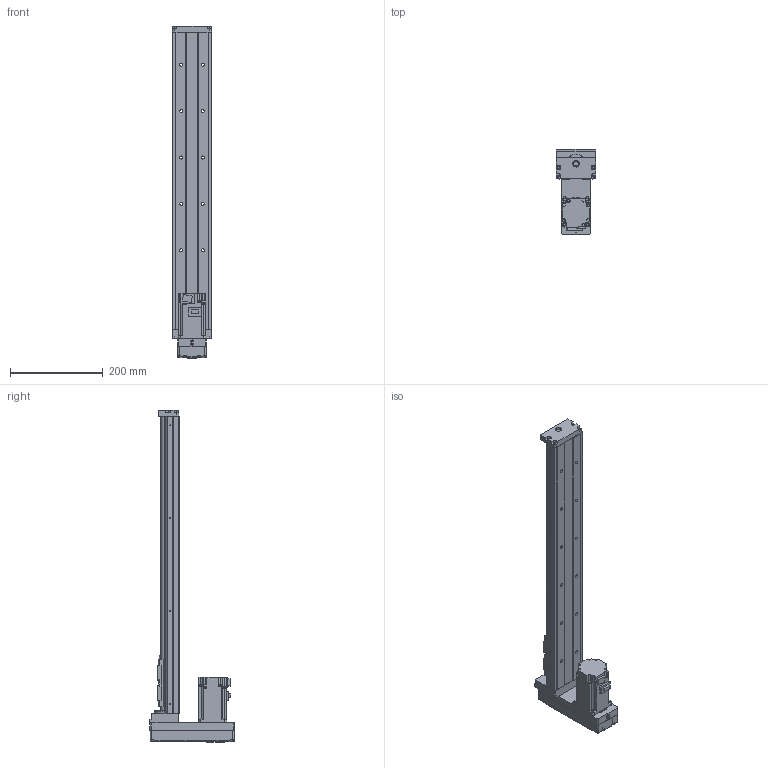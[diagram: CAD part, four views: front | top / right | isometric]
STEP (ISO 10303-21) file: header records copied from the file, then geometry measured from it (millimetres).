
FILE_DESCRIPTION (( 'STEP AP203' ), '1' );
FILE_NAME ('KH86D10C-640A1-H0M-Z.STEP', '2023-09-14T08:46:41', ( 'Windows User' ), ( 'P R C' ), 'SwSTEP 2.0', 'SolidWorks 2016', '' );
FILE_SCHEMA (( 'CONFIG_CONTROL_DESIGN' ));
Length unit declared in the file: millimetre
Products named in the file (7): KH86-綴釱-05S_KK86-05-01; KH86-01-640; KK86-06-02（M12X1.0）; KH86-02-BM00; KH86-A1; 86賑輸; KH86D10C-640A1-H0M-Z
Assembly tree (6 placements, depth 3):
  KH86D10C-640A1-H0M-Z
    KH86-01-640
    KH86-A1
      86賑輸
    KH86-綴釱-05S_KK86-05-01
    KK86-06-02（M12X1.0）
    KH86-02-BM00
Bounding box: 86 x 183.15 x 714.5 mm (x, y, z)
Volume: 1799493.5 mm3; surface area: 382859 mm2
Topology: 22 solids, 22 shells, 1220 faces, 3161 edges, 2036 vertices
Faces by surface type: plane 518, cylinder 439, cone 117, bspline 94, torus 48, sphere 4
Entity records: 44094 total; most frequent: CARTESIAN_POINT 13703, ORIENTED_EDGE 6222, DIRECTION 6078, EDGE_CURVE 3111, AXIS2_PLACEMENT_3D 2194, VERTEX_POINT 2036, VECTOR 1690, LINE 1690
